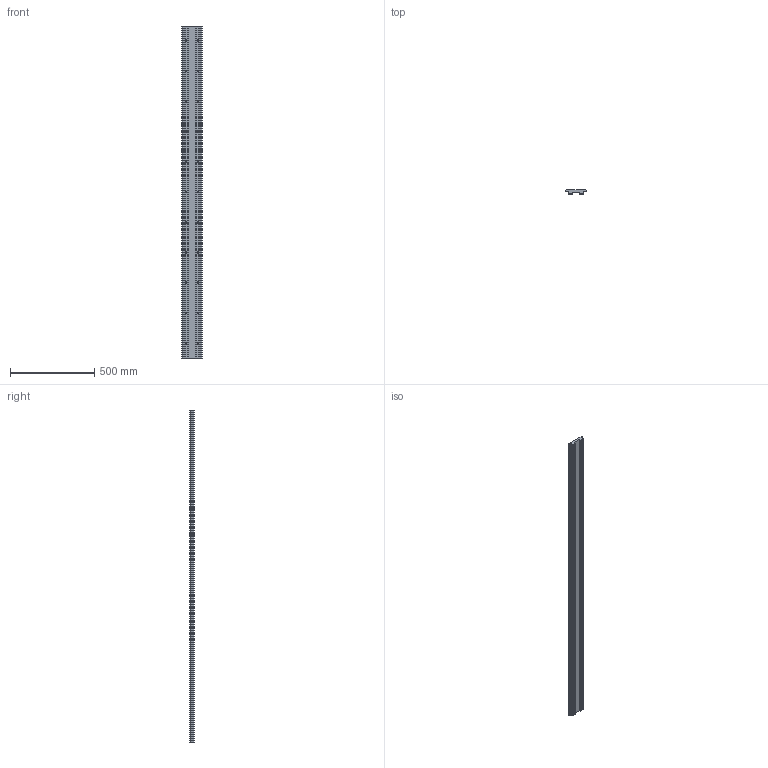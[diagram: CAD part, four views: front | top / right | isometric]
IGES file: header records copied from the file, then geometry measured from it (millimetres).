
Start section: 3D InterOp IGES (v. 2019 1.0.2), Spatial Corp. Copyright (c) 1999-2017.
Global section: file name: NL120 L1976 P3.igs; native system: Spatial Corp.; preprocessor: 3D InterOp GENERIC/IGES 3.0; author: Noname; organization: Noname; date: 20220704.105721; units: millimetre
Bounding box: 120.25 x 24.41 x 1976 mm (x, y, z)
Surface area: 614257.4 mm2 (no closed solid volume)
Topology: 0 solids, 0 shells, 148 faces, 744 edges, 744 vertices
Faces by surface type: revolution 100, extrusion 48
